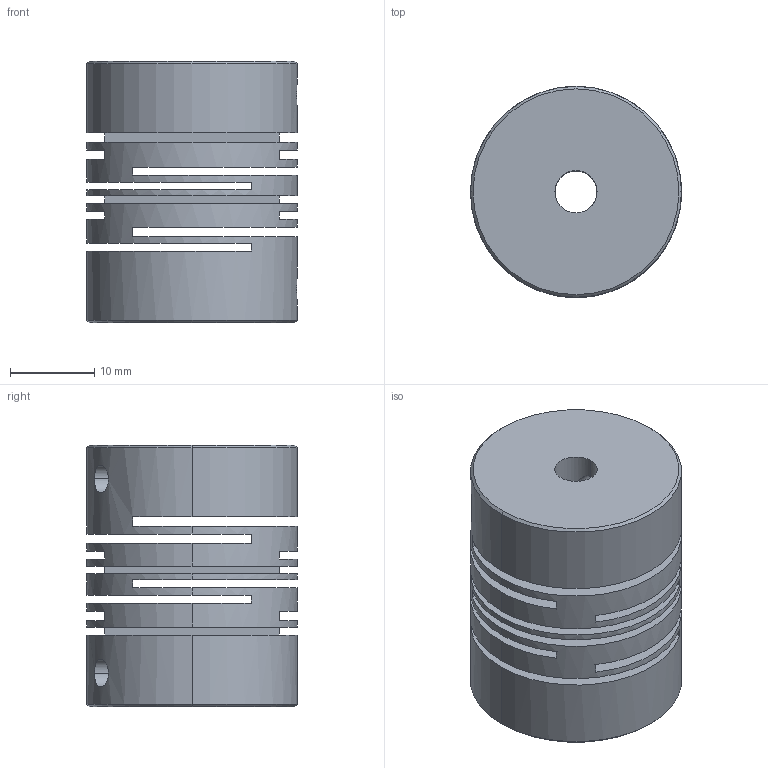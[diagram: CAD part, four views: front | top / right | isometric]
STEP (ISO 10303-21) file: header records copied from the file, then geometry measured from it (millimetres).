
FILE_DESCRIPTION (( 'STEP AP203' ), '1' );
FILE_NAME ('SFC-25.STEP', '2009-09-30T14:57:19', ( 'USER' ), ( 'HOME' ), 'SwSTEP 2.0', 'SolidWorks 2007', '' );
FILE_SCHEMA (( 'CONFIG_CONTROL_DESIGN' ));
Length unit declared in the file: millimetre
Products named in the file (1): SFC-25
Bounding box: 25 x 25 x 31 mm (x, y, z)
Volume: 11137.6 mm3; surface area: 10067.6 mm2
Topology: 1 solids, 1 shells, 62 faces, 180 edges, 116 vertices
Faces by surface type: cylinder 32, plane 26, cone 4
Entity records: 2581 total; most frequent: CARTESIAN_POINT 771, DIRECTION 374, ORIENTED_EDGE 360, EDGE_CURVE 180, AXIS2_PLACEMENT_3D 147, VERTEX_POINT 116, CIRCLE 84, EDGE_LOOP 84
